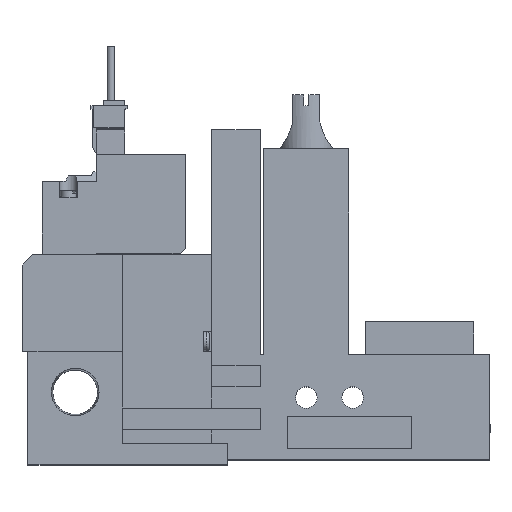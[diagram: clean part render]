
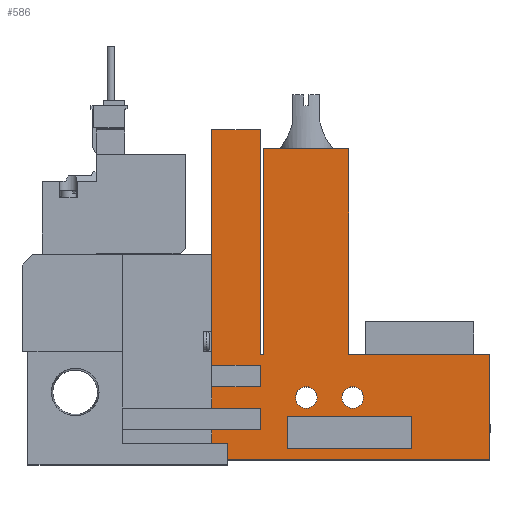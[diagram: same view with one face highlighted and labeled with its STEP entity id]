
A CAD part, top view. The second image highlights one B-rep face of the part: STEP entity #586.
In plain terms, the highlighted planar face has unit normal (0, 0, 1).
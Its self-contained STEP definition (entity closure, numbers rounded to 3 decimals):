
#586=ADVANCED_FACE('',(#1193,#1194,#1195,#1196),#1197,.T.);
#1193=FACE_OUTER_BOUND('',#2003,.T.);
#1194=FACE_BOUND('',#2004,.T.);
#1195=FACE_BOUND('',#2005,.T.);
#1196=FACE_BOUND('',#2006,.T.);
#1197=PLANE('',#2007);
#2003=EDGE_LOOP('',(#4216,#4217,#4218,#4219,#4220,#4221,#4222,#4223,#4224,#4225,#4226,#4227,#4228,#4229,#4230,#4231,#4232,#4233));
#2004=EDGE_LOOP('',(#4234,#4235,#4236,#4237));
#2005=EDGE_LOOP('',(#4238));
#2006=EDGE_LOOP('',(#4239));
#2007=AXIS2_PLACEMENT_3D('',#4240,#4241,#4242);
#4216=ORIENTED_EDGE('',*,*,#5860,.T.);
#4217=ORIENTED_EDGE('',*,*,#5861,.T.);
#4218=ORIENTED_EDGE('',*,*,#5859,.T.);
#4219=ORIENTED_EDGE('',*,*,#5862,.T.);
#4220=ORIENTED_EDGE('',*,*,#5863,.T.);
#4221=ORIENTED_EDGE('',*,*,#5864,.T.);
#4222=ORIENTED_EDGE('',*,*,#5865,.T.);
#4223=ORIENTED_EDGE('',*,*,#5866,.T.);
#4224=ORIENTED_EDGE('',*,*,#5867,.T.);
#4225=ORIENTED_EDGE('',*,*,#5868,.T.);
#4226=ORIENTED_EDGE('',*,*,#5869,.T.);
#4227=ORIENTED_EDGE('',*,*,#5870,.T.);
#4228=ORIENTED_EDGE('',*,*,#5871,.T.);
#4229=ORIENTED_EDGE('',*,*,#5872,.T.);
#4230=ORIENTED_EDGE('',*,*,#5873,.T.);
#4231=ORIENTED_EDGE('',*,*,#5874,.T.);
#4232=ORIENTED_EDGE('',*,*,#5875,.T.);
#4233=ORIENTED_EDGE('',*,*,#5876,.T.);
#4234=ORIENTED_EDGE('',*,*,#5877,.T.);
#4235=ORIENTED_EDGE('',*,*,#5878,.T.);
#4236=ORIENTED_EDGE('',*,*,#5879,.T.);
#4237=ORIENTED_EDGE('',*,*,#5880,.T.);
#4238=ORIENTED_EDGE('',*,*,#5881,.T.);
#4239=ORIENTED_EDGE('',*,*,#5882,.T.);
#4240=CARTESIAN_POINT('',(0.0,0.0,10.0));
#4241=DIRECTION('',(0.0,0.0,1.0));
#4242=DIRECTION('',(1.0,0.0,0.0));
#5859=EDGE_CURVE('',#7188,#7193,#7195,.T.);
#5860=EDGE_CURVE('',#7196,#7197,#7198,.T.);
#5861=EDGE_CURVE('',#7197,#7188,#7199,.T.);
#5862=EDGE_CURVE('',#7193,#7200,#7201,.T.);
#5863=EDGE_CURVE('',#7200,#7202,#7203,.T.);
#5864=EDGE_CURVE('',#7202,#7204,#7205,.T.);
#5865=EDGE_CURVE('',#7204,#7206,#7207,.T.);
#5866=EDGE_CURVE('',#7206,#7208,#7209,.T.);
#5867=EDGE_CURVE('',#7208,#7210,#7211,.T.);
#5868=EDGE_CURVE('',#7210,#7212,#7213,.T.);
#5869=EDGE_CURVE('',#7212,#7214,#7215,.T.);
#5870=EDGE_CURVE('',#7214,#7216,#7217,.T.);
#5871=EDGE_CURVE('',#7216,#7218,#7219,.T.);
#5872=EDGE_CURVE('',#7218,#7220,#7221,.T.);
#5873=EDGE_CURVE('',#7220,#7222,#7223,.T.);
#5874=EDGE_CURVE('',#7222,#7224,#7225,.T.);
#5875=EDGE_CURVE('',#7224,#7226,#7227,.T.);
#5876=EDGE_CURVE('',#7226,#7196,#7228,.T.);
#5877=EDGE_CURVE('',#7229,#7230,#7231,.T.);
#5878=EDGE_CURVE('',#7230,#7232,#7233,.T.);
#5879=EDGE_CURVE('',#7232,#7234,#7235,.T.);
#5880=EDGE_CURVE('',#7234,#7229,#7236,.T.);
#5881=EDGE_CURVE('',#7237,#7237,#7238,.T.);
#5882=EDGE_CURVE('',#7239,#7239,#7240,.T.);
#7188=VERTEX_POINT('',#9333);
#7193=VERTEX_POINT('',#9340);
#7195=LINE('',#9343,#9344);
#7196=VERTEX_POINT('',#9345);
#7197=VERTEX_POINT('',#9346);
#7198=LINE('',#9347,#9348);
#7199=LINE('',#9349,#9350);
#7200=VERTEX_POINT('',#9351);
#7201=LINE('',#9352,#9353);
#7202=VERTEX_POINT('',#9354);
#7203=LINE('',#9355,#9356);
#7204=VERTEX_POINT('',#9357);
#7205=LINE('',#9358,#9359);
#7206=VERTEX_POINT('',#9360);
#7207=LINE('',#9361,#9362);
#7208=VERTEX_POINT('',#9363);
#7209=LINE('',#9364,#9365);
#7210=VERTEX_POINT('',#9366);
#7211=LINE('',#9367,#9368);
#7212=VERTEX_POINT('',#9369);
#7213=LINE('',#9370,#9371);
#7214=VERTEX_POINT('',#9372);
#7215=LINE('',#9373,#9374);
#7216=VERTEX_POINT('',#9375);
#7217=LINE('',#9376,#9377);
#7218=VERTEX_POINT('',#9378);
#7219=LINE('',#9379,#9380);
#7220=VERTEX_POINT('',#9381);
#7221=LINE('',#9382,#9383);
#7222=VERTEX_POINT('',#9384);
#7223=LINE('',#9385,#9386);
#7224=VERTEX_POINT('',#9387);
#7225=LINE('',#9388,#9389);
#7226=VERTEX_POINT('',#9390);
#7227=LINE('',#9391,#9392);
#7228=LINE('',#9393,#9394);
#7229=VERTEX_POINT('',#9395);
#7230=VERTEX_POINT('',#9396);
#7231=LINE('',#9397,#9398);
#7232=VERTEX_POINT('',#9399);
#7233=LINE('',#9400,#9401);
#7234=VERTEX_POINT('',#9402);
#7235=LINE('',#9403,#9404);
#7236=LINE('',#9405,#9406);
#7237=VERTEX_POINT('',#9407);
#7238=CIRCLE('',#9408,2.0);
#7239=VERTEX_POINT('',#9409);
#7240=CIRCLE('',#9410,2.0);
#9333=CARTESIAN_POINT('',(44.1,17.5,10.0));
#9340=CARTESIAN_POINT('',(44.1,13.5,10.0));
#9343=CARTESIAN_POINT('',(44.1,0.0,10.0));
#9344=VECTOR('',#10923,1.0);
#9345=CARTESIAN_POINT('',(35.1,61.0,10.0));
#9346=CARTESIAN_POINT('',(35.1,17.5,10.0));
#9347=CARTESIAN_POINT('',(35.1,61.0,10.0));
#9348=VECTOR('',#10924,1.0);
#9349=CARTESIAN_POINT('',(0.0,17.5,10.0));
#9350=VECTOR('',#10925,1.0);
#9351=CARTESIAN_POINT('',(35.1,13.5,10.0));
#9352=CARTESIAN_POINT('',(0.0,13.5,10.0));
#9353=VECTOR('',#10926,1.0);
#9354=CARTESIAN_POINT('',(35.1,9.5,10.0));
#9355=CARTESIAN_POINT('',(35.1,0.0,10.0));
#9356=VECTOR('',#10927,1.0);
#9357=CARTESIAN_POINT('',(44.1,9.5,10.0));
#9358=CARTESIAN_POINT('',(0.0,9.5,10.0));
#9359=VECTOR('',#10928,1.0);
#9360=CARTESIAN_POINT('',(44.1,5.5,10.0));
#9361=CARTESIAN_POINT('',(44.1,0.0,10.0));
#9362=VECTOR('',#10929,1.0);
#9363=CARTESIAN_POINT('',(35.1,5.5,10.0));
#9364=CARTESIAN_POINT('',(0.0,5.5,10.0));
#9365=VECTOR('',#10930,1.0);
#9366=CARTESIAN_POINT('',(35.1,0.0,10.0));
#9367=CARTESIAN_POINT('',(35.1,0.0,10.0));
#9368=VECTOR('',#10931,1.0);
#9369=CARTESIAN_POINT('',(86.6,0.0,10.0));
#9370=CARTESIAN_POINT('',(18.6,0.0,10.0));
#9371=VECTOR('',#10932,1.0);
#9372=CARTESIAN_POINT('',(86.6,19.5,10.0));
#9373=CARTESIAN_POINT('',(86.6,0.0,10.0));
#9374=VECTOR('',#10933,1.0);
#9375=CARTESIAN_POINT('',(60.45,19.5,10.0));
#9376=CARTESIAN_POINT('',(86.6,19.5,10.0));
#9377=VECTOR('',#10934,1.0);
#9378=CARTESIAN_POINT('',(60.45,57.5,10.0));
#9379=CARTESIAN_POINT('',(60.45,19.5,10.0));
#9380=VECTOR('',#10935,1.0);
#9381=CARTESIAN_POINT('',(44.75,57.5,10.0));
#9382=CARTESIAN_POINT('',(60.45,57.5,10.0));
#9383=VECTOR('',#10936,1.0);
#9384=CARTESIAN_POINT('',(44.75,19.5,10.0));
#9385=CARTESIAN_POINT('',(44.75,57.5,10.0));
#9386=VECTOR('',#10937,1.0);
#9387=CARTESIAN_POINT('',(44.1,19.5,10.0));
#9388=CARTESIAN_POINT('',(44.75,19.5,10.0));
#9389=VECTOR('',#10938,1.0);
#9390=CARTESIAN_POINT('',(44.1,61.0,10.0));
#9391=CARTESIAN_POINT('',(44.1,19.5,10.0));
#9392=VECTOR('',#10939,1.0);
#9393=CARTESIAN_POINT('',(44.1,61.0,10.0));
#9394=VECTOR('',#10940,1.0);
#9395=CARTESIAN_POINT('',(49.1,2.0,10.0));
#9396=CARTESIAN_POINT('',(49.1,8.0,10.0));
#9397=CARTESIAN_POINT('',(49.1,0.0,10.0));
#9398=VECTOR('',#10941,1.0);
#9399=CARTESIAN_POINT('',(72.1,8.0,10.0));
#9400=CARTESIAN_POINT('',(0.0,8.0,10.0));
#9401=VECTOR('',#10942,1.0);
#9402=CARTESIAN_POINT('',(72.1,2.0,10.0));
#9403=CARTESIAN_POINT('',(72.1,0.0,10.0));
#9404=VECTOR('',#10943,1.0);
#9405=CARTESIAN_POINT('',(0.0,2.0,10.0));
#9406=VECTOR('',#10944,1.0);
#9407=CARTESIAN_POINT('',(54.6,11.5,10.0));
#9408=AXIS2_PLACEMENT_3D('',#10945,#10946,#10947);
#9409=CARTESIAN_POINT('',(63.2,11.5,10.0));
#9410=AXIS2_PLACEMENT_3D('',#10948,#10949,#10950);
#10923=DIRECTION('',(0.0,-1.0,0.0));
#10924=DIRECTION('',(0.0,-1.0,0.0));
#10925=DIRECTION('',(1.0,0.0,0.0));
#10926=DIRECTION('',(-1.0,0.0,0.0));
#10927=DIRECTION('',(0.0,-1.0,0.0));
#10928=DIRECTION('',(1.0,0.0,0.0));
#10929=DIRECTION('',(0.0,-1.0,0.0));
#10930=DIRECTION('',(-1.0,0.0,0.0));
#10931=DIRECTION('',(0.0,-1.0,0.0));
#10932=DIRECTION('',(1.0,0.0,0.0));
#10933=DIRECTION('',(0.0,1.0,0.0));
#10934=DIRECTION('',(-1.0,0.0,0.0));
#10935=DIRECTION('',(0.0,1.0,0.0));
#10936=DIRECTION('',(-1.0,0.0,0.0));
#10937=DIRECTION('',(0.0,-1.0,0.0));
#10938=DIRECTION('',(-1.0,0.0,0.0));
#10939=DIRECTION('',(0.0,1.0,0.0));
#10940=DIRECTION('',(-1.0,0.0,0.0));
#10941=DIRECTION('',(0.0,1.0,0.0));
#10942=DIRECTION('',(1.0,0.0,0.0));
#10943=DIRECTION('',(0.0,-1.0,0.0));
#10944=DIRECTION('',(-1.0,0.0,0.0));
#10945=CARTESIAN_POINT('',(52.6,11.5,10.0));
#10946=DIRECTION('',(0.0,0.0,-1.0));
#10947=DIRECTION('',(1.0,0.0,0.0));
#10948=CARTESIAN_POINT('',(61.2,11.5,10.0));
#10949=DIRECTION('',(0.0,0.0,-1.0));
#10950=DIRECTION('',(1.0,0.0,0.0));
